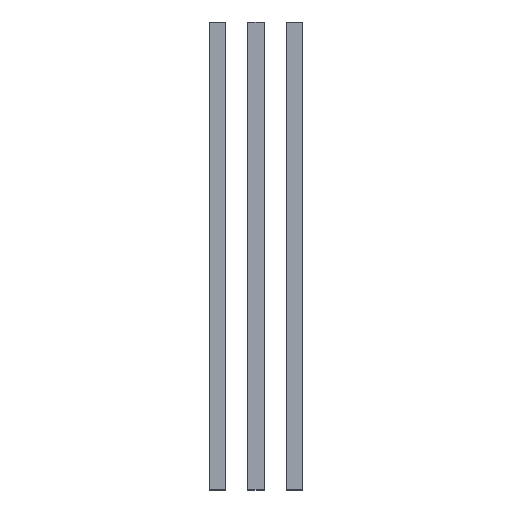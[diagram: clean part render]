
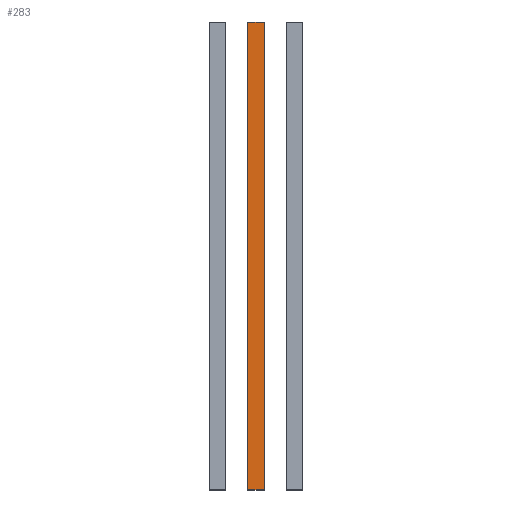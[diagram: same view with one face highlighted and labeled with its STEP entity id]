
A CAD part, top view. The second image highlights one B-rep face of the part: STEP entity #283.
In plain terms, the highlighted planar face has unit normal (0, 0, 1).
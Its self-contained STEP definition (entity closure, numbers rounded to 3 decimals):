
#25=FACE_OUTER_BOUND('',#43,.T.);
#43=EDGE_LOOP('',(#211,#212,#213,#214));
#67=LINE('',#433,#103);
#68=LINE('',#435,#104);
#69=LINE('',#437,#105);
#70=LINE('',#438,#106);
#103=VECTOR('',#357,10.);
#104=VECTOR('',#358,10.);
#105=VECTOR('',#359,10.);
#106=VECTOR('',#360,10.);
#135=VERTEX_POINT('',#431);
#136=VERTEX_POINT('',#432);
#137=VERTEX_POINT('',#434);
#138=VERTEX_POINT('',#436);
#163=EDGE_CURVE('',#135,#136,#67,.T.);
#164=EDGE_CURVE('',#136,#137,#68,.T.);
#165=EDGE_CURVE('',#137,#138,#69,.T.);
#166=EDGE_CURVE('',#138,#135,#70,.T.);
#211=ORIENTED_EDGE('',*,*,#163,.T.);
#212=ORIENTED_EDGE('',*,*,#164,.T.);
#213=ORIENTED_EDGE('',*,*,#165,.T.);
#214=ORIENTED_EDGE('',*,*,#166,.T.);
#265=PLANE('',#317);
#283=ADVANCED_FACE('',(#25),#265,.T.);
#317=AXIS2_PLACEMENT_3D('',#430,#355,#356);
#355=DIRECTION('center_axis',(0.,0.,1.));
#356=DIRECTION('ref_axis',(1.,0.,0.));
#357=DIRECTION('',(0.,1.,0.));
#358=DIRECTION('',(-1.,0.,0.));
#359=DIRECTION('',(0.,-1.,0.));
#360=DIRECTION('',(1.,0.,0.));
#430=CARTESIAN_POINT('Origin',(90.,35.25,150.515));
#431=CARTESIAN_POINT('',(90.275,27.5,150.515));
#432=CARTESIAN_POINT('',(90.275,43.,150.515));
#433=CARTESIAN_POINT('',(90.275,35.25,150.515));
#434=CARTESIAN_POINT('',(89.725,43.,150.515));
#435=CARTESIAN_POINT('',(90.,43.,150.515));
#436=CARTESIAN_POINT('',(89.725,27.5,150.515));
#437=CARTESIAN_POINT('',(89.725,35.25,150.515));
#438=CARTESIAN_POINT('',(90.,27.5,150.515));
